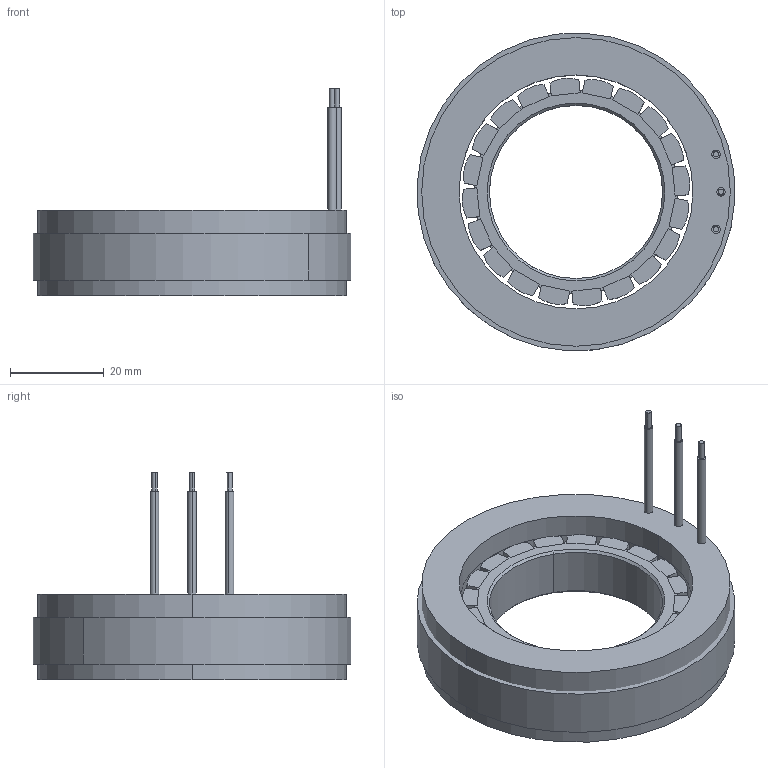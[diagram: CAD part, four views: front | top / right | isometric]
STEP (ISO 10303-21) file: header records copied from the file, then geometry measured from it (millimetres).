
FILE_DESCRIPTION (( 'STEP AP203' ), '1' );
FILE_NAME ('6818萇儂 - 1.STEP', '2025-01-16T08:51:43', ( '' ), ( '' ), 'SwSTEP 2.0', 'SolidWorks 2023', '' );
FILE_SCHEMA (( 'CONFIG_CONTROL_DESIGN' ));
Length unit declared in the file: millimetre
Products named in the file (1): 6818电机 - 1
Bounding box: 67.9 x 67.9 x 44.3 mm (x, y, z)
Surface area: 19962.3 mm2 (no closed solid volume)
Topology: 0 solids, 27 shells, 137 faces, 784 edges, 660 vertices
Faces by surface type: plane 94, cylinder 39, cone 4
Entity records: 7691 total; most frequent: CARTESIAN_POINT 1582, DIRECTION 1300, ORIENTED_EDGE 982, EDGE_CURVE 784, VERTEX_POINT 660, VECTOR 544, LINE 544, AXIS2_PLACEMENT_3D 378
